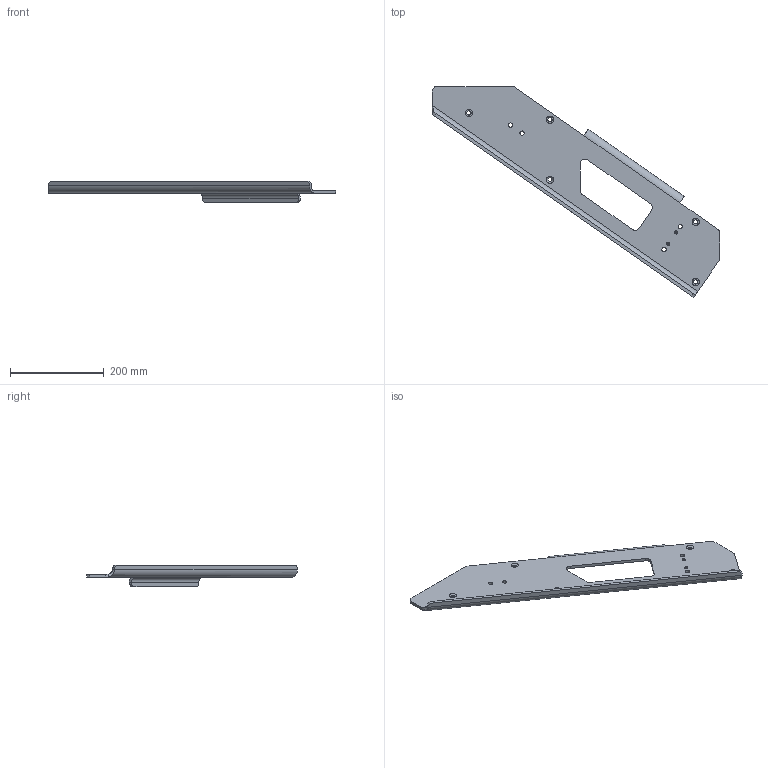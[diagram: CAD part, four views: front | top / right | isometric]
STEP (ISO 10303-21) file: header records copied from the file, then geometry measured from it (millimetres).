
FILE_DESCRIPTION(/* description */ ('SUPPORT BOITIER','CAx-IF Rec.Pracs.---Representation and Presentation of Product Manufacturing Information (PMI)---4.0---2014-10-13'),/* implementation_level */ '2;1');
FILE_NAME(/* name */ 'vv810001-A.stp',/* time_stamp */ '2025-09-29T10:10:53+02:00',/* author */ ('puig'),/* organization */ (''),/* preprocessor_version */ 'ST-DEVELOPER v20',/* originating_system */ 'Autodesk Inventor 2025',/* authorisation */ '');
FILE_SCHEMA (('AP242_MANAGED_MODEL_BASED_3D_ENGINEERING_MIM_LF { 1 0 10303 442 1 1 4 }'));
Length unit declared in the file: millimetre
Products named in the file (1): VICTOR.V.81.00.01
Bounding box: 612.79 x 450.14 x 46 mm (x, y, z)
Volume: 617757.8 mm3; surface area: 220553.5 mm2
Topology: 1 solids, 1 shells, 61 faces, 154 edges, 95 vertices
Faces by surface type: plane 30, cylinder 22, cone 7, bspline 2
Full cylindrical faces by diameter (mm): 3.4 x2, 9 x9
Entity records: 2290 total; most frequent: CARTESIAN_POINT 493, DIRECTION 339, ORIENTED_EDGE 308, EDGE_CURVE 154, AXIS2_PLACEMENT_3D 119, LINE 101, VECTOR 101, VERTEX_POINT 95
